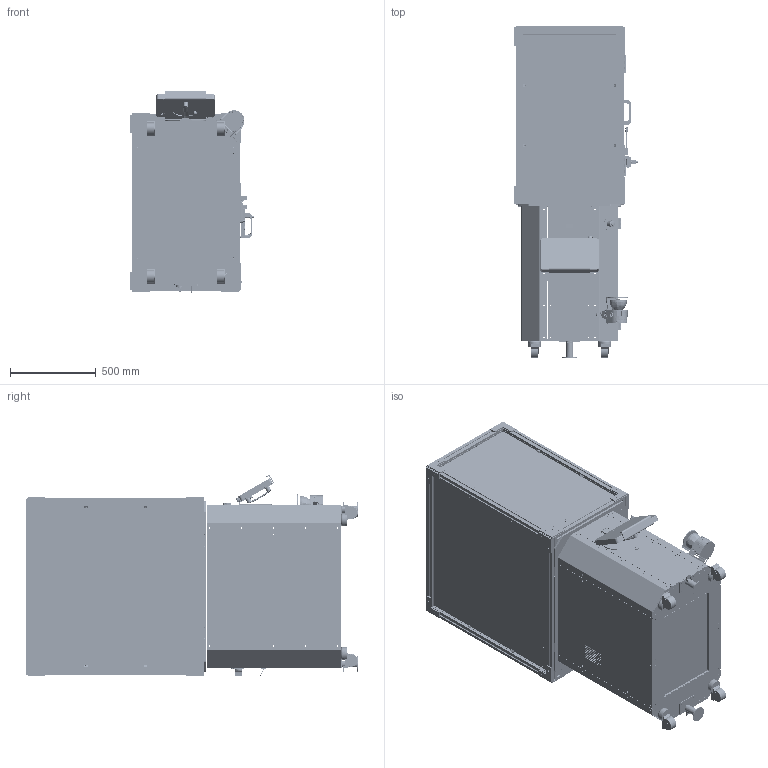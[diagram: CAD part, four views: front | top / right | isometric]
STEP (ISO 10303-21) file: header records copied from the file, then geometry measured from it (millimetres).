
FILE_DESCRIPTION (( 'STEP AP214' ), '1' );
FILE_NAME ('BUNDLE_H600_vac_2021_06.STEP', '2021-05-26T11:34:10', ( '' ), ( '' ), 'SwSTEP 2.0', 'SolidWorks 2017', '' );
FILE_SCHEMA (( 'AUTOMOTIVE_DESIGN' ));
Length unit declared in the file: millimetre
Products named in the file (10): horstPANEL; MRB_S_BUNDLE; ZUHALTUNG_SENSOR; LASERSCANNER_SICK; fru_HORST600_2021_01; horstCONTROL; BUNDLE_H600_vac_2021_06; ZUSAMMENBAU_GREIFER_SCHMALZ; Halterung_horstPANEL; SCHUTZZAUN_S
Assembly tree (9 placements, depth 2):
  BUNDLE_H600_vac_2021_06
    MRB_S_BUNDLE
    horstPANEL
    horstCONTROL
    Halterung_horstPANEL
    fru_HORST600_2021_01
    LASERSCANNER_SICK
    ZUSAMMENBAU_GREIFER_SCHMALZ
    SCHUTZZAUN_S
    ZUHALTUNG_SENSOR
Bounding box: 720.62 x 1939.5 x 1180.1 mm (x, y, z)
Volume: 32930659.3 mm3; surface area: 28488197.1 mm2
Topology: 221 solids, 927 shells, 24670 faces, 71697 edges, 48583 vertices
Faces by surface type: plane 16359, cylinder 5982, bspline 1738, cone 505, torus 79, sphere 7
Full cylindrical faces by diameter (mm): 0.8 x8, 0.86 x2, 1.1 x5, 1.5 x8, 1.75 x4, 1.8 x3, 1.85 x9, 1.93 x8, 2 x5, 2.1 x2, 2.3 x2, 2.5 x6, 2.8 x5, 2.896 x4, 2.9 x6, 3 x26, 3.2 x13, 3.3 x25, 3.4 x14, 3.5 x28, 3.6 x1, 3.7 x3, 4 x47, 4.1 x2, 4.2 x26, 4.318 x2, 4.4 x8, 4.5 x24, 4.8 x20, 4.85 x1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
Entity records: 1176331 total; most frequent: CARTESIAN_POINT 267780, ORIENTED_EDGE 130349, DIRECTION 121631, EDGE_CURVE 69849, VECTOR 50157, LINE 50157, VERTEX_POINT 48251, AXIS2_PLACEMENT_3D 35737
